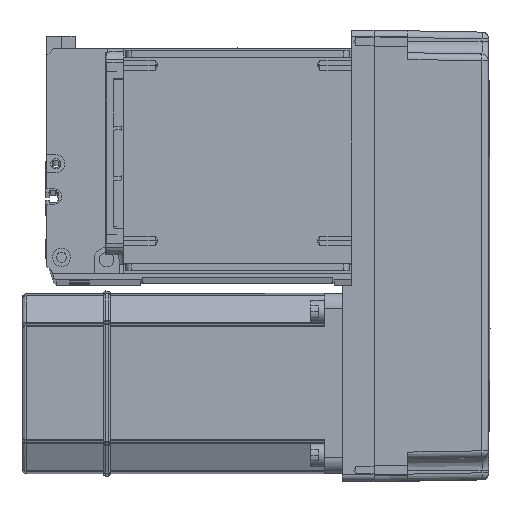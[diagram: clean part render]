
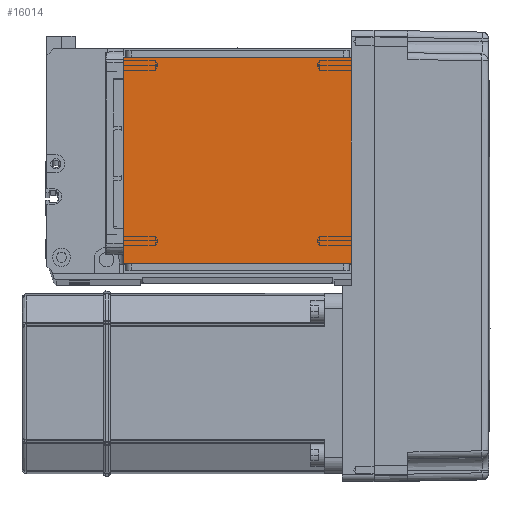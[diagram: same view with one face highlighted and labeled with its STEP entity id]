
A CAD part, top view. The second image highlights one B-rep face of the part: STEP entity #16014.
In plain terms, the highlighted planar face has unit normal (0, 0, 1).
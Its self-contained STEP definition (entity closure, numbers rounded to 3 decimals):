
#684 = ORIENTED_EDGE ( 'NONE', *, *, #23506, .T. ) ;
#1851 = DIRECTION ( 'NONE',  ( 1., 0., 0. ) ) ;
#5078 = VERTEX_POINT ( 'NONE', #52267 ) ;
#6315 = VECTOR ( 'NONE', #20737, 1000. ) ;
#8301 = EDGE_LOOP ( 'NONE', ( #22737, #35659, #40843, #684 ) ) ;
#8834 = CARTESIAN_POINT ( 'NONE',  ( -50.5, 122., 115. ) ) ;
#10164 = EDGE_CURVE ( 'NONE', #54464, #34944, #19948, .T. ) ;
#10661 = DIRECTION ( 'NONE',  ( 0., 1., 0. ) ) ;
#14566 = CARTESIAN_POINT ( 'NONE',  ( -50.5, 111.5, 115. ) ) ;
#16014 = ADVANCED_FACE ( 'NONE', ( #53694 ), #42218, .T. ) ;
#19371 = CARTESIAN_POINT ( 'NONE',  ( 0., 0., 115. ) ) ;
#19948 = LINE ( 'NONE', #56714, #6315 ) ;
#20593 = VECTOR ( 'NONE', #10661, 1000. ) ;
#20737 = DIRECTION ( 'NONE',  ( -1., 0., 0. ) ) ;
#22014 = CARTESIAN_POINT ( 'NONE',  ( 50.5, 20., 115. ) ) ;
#22737 = ORIENTED_EDGE ( 'NONE', *, *, #55282, .F. ) ;
#23506 = EDGE_CURVE ( 'NONE', #54464, #5078, #42911, .T. ) ;
#24575 = DIRECTION ( 'NONE',  ( 0., 0., 1. ) ) ;
#25972 = AXIS2_PLACEMENT_3D ( 'NONE', #19371, #24575, #1851 ) ;
#27801 = VECTOR ( 'NONE', #47205, 1000. ) ;
#34944 = VERTEX_POINT ( 'NONE', #51721 ) ;
#35659 = ORIENTED_EDGE ( 'NONE', *, *, #56837, .T. ) ;
#40527 = VECTOR ( 'NONE', #50170, 1000. ) ;
#40843 = ORIENTED_EDGE ( 'NONE', *, *, #10164, .F. ) ;
#42218 = PLANE ( 'NONE',  #25972 ) ;
#42911 = LINE ( 'NONE', #47542, #20593 ) ;
#43417 = LINE ( 'NONE', #8834, #40527 ) ;
#45082 = LINE ( 'NONE', #47580, #27801 ) ;
#47205 = DIRECTION ( 'NONE',  ( 1., 0., 0. ) ) ;
#47542 = CARTESIAN_POINT ( 'NONE',  ( 50.5, 122., 115. ) ) ;
#47580 = CARTESIAN_POINT ( 'NONE',  ( -70.004, 111.5, 115. ) ) ;
#50170 = DIRECTION ( 'NONE',  ( 0., -1., 0. ) ) ;
#51721 = CARTESIAN_POINT ( 'NONE',  ( -50.5, 20., 115. ) ) ;
#52267 = CARTESIAN_POINT ( 'NONE',  ( 50.5, 111.5, 115. ) ) ;
#53694 = FACE_OUTER_BOUND ( 'NONE', #8301, .T. ) ;
#54464 = VERTEX_POINT ( 'NONE', #22014 ) ;
#55282 = EDGE_CURVE ( 'NONE', #56307, #5078, #45082, .T. ) ;
#56307 = VERTEX_POINT ( 'NONE', #14566 ) ;
#56714 = CARTESIAN_POINT ( 'NONE',  ( -70.004, 20., 115. ) ) ;
#56837 = EDGE_CURVE ( 'NONE', #56307, #34944, #43417, .T. ) ;
